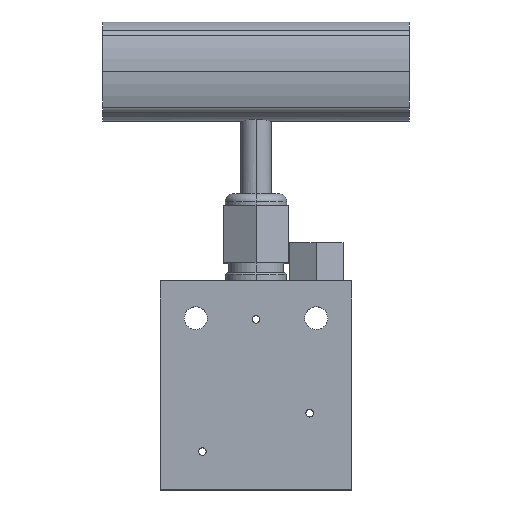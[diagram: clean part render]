
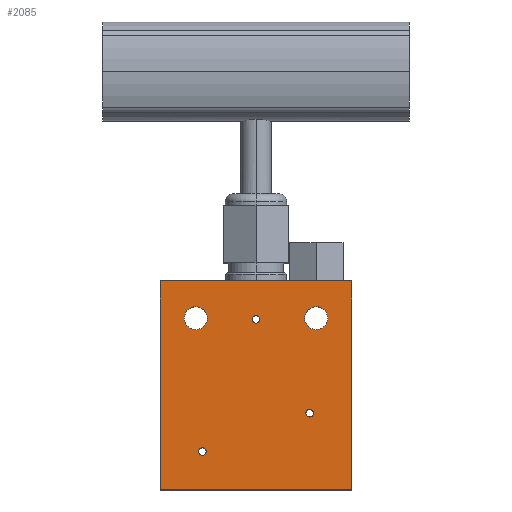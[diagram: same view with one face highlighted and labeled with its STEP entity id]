
A CAD part, top view. The second image highlights one B-rep face of the part: STEP entity #2085.
In plain terms, the highlighted planar face has unit normal (0, 0, 1).
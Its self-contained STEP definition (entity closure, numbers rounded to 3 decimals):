
#9 = CARTESIAN_POINT ( 'NONE',  ( 13., -7.25, 10. ) ) ;
#74 = ORIENTED_EDGE ( 'NONE', *, *, #2242, .T. ) ;
#79 = CARTESIAN_POINT ( 'NONE',  ( 15.7, 17.55, 10. ) ) ;
#118 = PLANE ( 'NONE',  #2000 ) ;
#141 = CARTESIAN_POINT ( 'NONE',  ( -25., -27.25, 10. ) ) ;
#154 = CARTESIAN_POINT ( 'NONE',  ( -18.7, 17.55, 10. ) ) ;
#163 = EDGE_LOOP ( 'NONE', ( #1718, #492 ) ) ;
#220 = VERTEX_POINT ( 'NONE', #1346 ) ;
#226 = EDGE_LOOP ( 'NONE', ( #2731, #1706 ) ) ;
#264 = EDGE_CURVE ( 'NONE', #925, #1735, #1487, .T. ) ;
#285 = ORIENTED_EDGE ( 'NONE', *, *, #1708, .T. ) ;
#288 = LINE ( 'NONE', #1362, #1687 ) ;
#325 = LINE ( 'NONE', #1850, #363 ) ;
#331 = DIRECTION ( 'NONE',  ( 1., 0., 0. ) ) ;
#343 = DIRECTION ( 'NONE',  ( 0., 0., 1. ) ) ;
#363 = VECTOR ( 'NONE', #1408, 1000. ) ;
#387 = VERTEX_POINT ( 'NONE', #9 ) ;
#422 = EDGE_CURVE ( 'NONE', #1735, #925, #2119, .T. ) ;
#441 = ORIENTED_EDGE ( 'NONE', *, *, #2067, .F. ) ;
#492 = ORIENTED_EDGE ( 'NONE', *, *, #422, .F. ) ;
#496 = DIRECTION ( 'NONE',  ( 1., 0., 0. ) ) ;
#545 = VERTEX_POINT ( 'NONE', #2399 ) ;
#555 = AXIS2_PLACEMENT_3D ( 'NONE', #1844, #2695, #766 ) ;
#579 = DIRECTION ( 'NONE',  ( 1., 0., 0. ) ) ;
#587 = EDGE_CURVE ( 'NONE', #1114, #963, #1197, .T. ) ;
#611 = CARTESIAN_POINT ( 'NONE',  ( -25., -27.25, 10. ) ) ;
#639 = EDGE_CURVE ( 'NONE', #1570, #2670, #325, .T. ) ;
#676 = AXIS2_PLACEMENT_3D ( 'NONE', #79, #730, #1795 ) ;
#677 = AXIS2_PLACEMENT_3D ( 'NONE', #1186, #786, #1878 ) ;
#691 = EDGE_CURVE ( 'NONE', #789, #387, #1897, .T. ) ;
#721 = AXIS2_PLACEMENT_3D ( 'NONE', #969, #1396, #1628 ) ;
#730 = DIRECTION ( 'NONE',  ( 0., 0., -1. ) ) ;
#733 = AXIS2_PLACEMENT_3D ( 'NONE', #1403, #2735, #2707 ) ;
#753 = CARTESIAN_POINT ( 'NONE',  ( 0., 17.25, 10. ) ) ;
#758 = VERTEX_POINT ( 'NONE', #1241 ) ;
#762 = FACE_BOUND ( 'NONE', #226, .T. ) ;
#766 = DIRECTION ( 'NONE',  ( 1., 0., 0. ) ) ;
#776 = FACE_BOUND ( 'NONE', #163, .T. ) ;
#786 = DIRECTION ( 'NONE',  ( 0., 0., 1. ) ) ;
#789 = VERTEX_POINT ( 'NONE', #1075 ) ;
#806 = CARTESIAN_POINT ( 'NONE',  ( 1., 17.25, 10. ) ) ;
#815 = EDGE_LOOP ( 'NONE', ( #1115, #2494 ) ) ;
#866 = DIRECTION ( 'NONE',  ( 0., 0., -1. ) ) ;
#870 = EDGE_CURVE ( 'NONE', #387, #789, #1940, .T. ) ;
#925 = VERTEX_POINT ( 'NONE', #1818 ) ;
#939 = DIRECTION ( 'NONE',  ( 1., 0., 0. ) ) ;
#963 = VERTEX_POINT ( 'NONE', #1101 ) ;
#969 = CARTESIAN_POINT ( 'NONE',  ( 14., -7.25, 10. ) ) ;
#977 = CARTESIAN_POINT ( 'NONE',  ( -15., -17.25, 10. ) ) ;
#1004 = DIRECTION ( 'NONE',  ( 1., 0., 0. ) ) ;
#1075 = CARTESIAN_POINT ( 'NONE',  ( 15., -7.25, 10. ) ) ;
#1077 = CARTESIAN_POINT ( 'NONE',  ( 15.7, 17.55, 10. ) ) ;
#1101 = CARTESIAN_POINT ( 'NONE',  ( 18.7, 17.55, 10. ) ) ;
#1114 = VERTEX_POINT ( 'NONE', #1339 ) ;
#1115 = ORIENTED_EDGE ( 'NONE', *, *, #1243, .F. ) ;
#1136 = CARTESIAN_POINT ( 'NONE',  ( 25., -27.25, 10. ) ) ;
#1168 = DIRECTION ( 'NONE',  ( 0., 0., 1. ) ) ;
#1186 = CARTESIAN_POINT ( 'NONE',  ( 14., -7.25, 10. ) ) ;
#1193 = DIRECTION ( 'NONE',  ( -1., 0., 0. ) ) ;
#1197 = CIRCLE ( 'NONE', #676, 3. ) ;
#1241 = CARTESIAN_POINT ( 'NONE',  ( -1., 17.25, 10. ) ) ;
#1243 = EDGE_CURVE ( 'NONE', #545, #1822, #1411, .T. ) ;
#1250 = EDGE_CURVE ( 'NONE', #2670, #220, #1815, .T. ) ;
#1279 = CARTESIAN_POINT ( 'NONE',  ( -15.7, 17.55, 10. ) ) ;
#1339 = CARTESIAN_POINT ( 'NONE',  ( 12.7, 17.55, 10. ) ) ;
#1346 = CARTESIAN_POINT ( 'NONE',  ( -25., 27.25, 10. ) ) ;
#1362 = CARTESIAN_POINT ( 'NONE',  ( -25., 27.25, 10. ) ) ;
#1396 = DIRECTION ( 'NONE',  ( 0., 0., 1. ) ) ;
#1403 = CARTESIAN_POINT ( 'NONE',  ( 0., 17.25, 10. ) ) ;
#1408 = DIRECTION ( 'NONE',  ( 0., 1., 0. ) ) ;
#1411 = CIRCLE ( 'NONE', #1953, 1. ) ;
#1455 = CARTESIAN_POINT ( 'NONE',  ( 25., 27.25, 10. ) ) ;
#1462 = EDGE_LOOP ( 'NONE', ( #2166, #2644, #285, #2449 ) ) ;
#1487 = CIRCLE ( 'NONE', #2471, 3. ) ;
#1515 = DIRECTION ( 'NONE',  ( -1., 0., 0. ) ) ;
#1519 = DIRECTION ( 'NONE',  ( 1., 0., 0. ) ) ;
#1532 = DIRECTION ( 'NONE',  ( 0., 0., 1. ) ) ;
#1543 = CARTESIAN_POINT ( 'NONE',  ( -15.7, 17.55, 10. ) ) ;
#1548 = VECTOR ( 'NONE', #1004, 1000. ) ;
#1570 = VERTEX_POINT ( 'NONE', #1136 ) ;
#1602 = AXIS2_PLACEMENT_3D ( 'NONE', #753, #343, #939 ) ;
#1628 = DIRECTION ( 'NONE',  ( 1., 0., 0. ) ) ;
#1687 = VECTOR ( 'NONE', #2215, 1000. ) ;
#1703 = EDGE_LOOP ( 'NONE', ( #74, #1849 ) ) ;
#1706 = ORIENTED_EDGE ( 'NONE', *, *, #870, .F. ) ;
#1708 = EDGE_CURVE ( 'NONE', #220, #2701, #288, .T. ) ;
#1718 = ORIENTED_EDGE ( 'NONE', *, *, #264, .F. ) ;
#1721 = ORIENTED_EDGE ( 'NONE', *, *, #2529, .F. ) ;
#1735 = VERTEX_POINT ( 'NONE', #154 ) ;
#1775 = CIRCLE ( 'NONE', #2354, 3. ) ;
#1795 = DIRECTION ( 'NONE',  ( -1., 0., 0. ) ) ;
#1815 = LINE ( 'NONE', #2664, #2762 ) ;
#1818 = CARTESIAN_POINT ( 'NONE',  ( -12.7, 17.55, 10. ) ) ;
#1822 = VERTEX_POINT ( 'NONE', #977 ) ;
#1844 = CARTESIAN_POINT ( 'NONE',  ( -14., -17.25, 10. ) ) ;
#1849 = ORIENTED_EDGE ( 'NONE', *, *, #587, .T. ) ;
#1850 = CARTESIAN_POINT ( 'NONE',  ( 25., 27.25, 10. ) ) ;
#1855 = FACE_BOUND ( 'NONE', #815, .T. ) ;
#1878 = DIRECTION ( 'NONE',  ( 1., 0., 0. ) ) ;
#1881 = DIRECTION ( 'NONE',  ( 0., 0., 1. ) ) ;
#1897 = CIRCLE ( 'NONE', #677, 1. ) ;
#1940 = CIRCLE ( 'NONE', #721, 1. ) ;
#1953 = AXIS2_PLACEMENT_3D ( 'NONE', #2680, #1168, #331 ) ;
#2000 = AXIS2_PLACEMENT_3D ( 'NONE', #2495, #1881, #579 ) ;
#2050 = FACE_BOUND ( 'NONE', #2212, .T. ) ;
#2067 = EDGE_CURVE ( 'NONE', #2649, #758, #2758, .T. ) ;
#2079 = CIRCLE ( 'NONE', #555, 1. ) ;
#2085 = ADVANCED_FACE ( 'NONE', ( #762, #1855, #2050, #2283, #776, #2259 ), #118, .T. ) ;
#2119 = CIRCLE ( 'NONE', #2699, 3. ) ;
#2124 = EDGE_CURVE ( 'NONE', #2701, #1570, #2483, .T. ) ;
#2166 = ORIENTED_EDGE ( 'NONE', *, *, #639, .T. ) ;
#2212 = EDGE_LOOP ( 'NONE', ( #441, #1721 ) ) ;
#2215 = DIRECTION ( 'NONE',  ( 0., -1., 0. ) ) ;
#2242 = EDGE_CURVE ( 'NONE', #963, #1114, #1775, .T. ) ;
#2259 = FACE_OUTER_BOUND ( 'NONE', #1462, .T. ) ;
#2283 = FACE_BOUND ( 'NONE', #1703, .T. ) ;
#2289 = EDGE_CURVE ( 'NONE', #1822, #545, #2079, .T. ) ;
#2354 = AXIS2_PLACEMENT_3D ( 'NONE', #1077, #866, #1515 ) ;
#2399 = CARTESIAN_POINT ( 'NONE',  ( -13., -17.25, 10. ) ) ;
#2424 = DIRECTION ( 'NONE',  ( 0., 0., 1. ) ) ;
#2449 = ORIENTED_EDGE ( 'NONE', *, *, #2124, .T. ) ;
#2471 = AXIS2_PLACEMENT_3D ( 'NONE', #1543, #2424, #496 ) ;
#2483 = LINE ( 'NONE', #141, #1548 ) ;
#2494 = ORIENTED_EDGE ( 'NONE', *, *, #2289, .F. ) ;
#2495 = CARTESIAN_POINT ( 'NONE',  ( 0., 0., 10. ) ) ;
#2529 = EDGE_CURVE ( 'NONE', #758, #2649, #2726, .T. ) ;
#2644 = ORIENTED_EDGE ( 'NONE', *, *, #1250, .T. ) ;
#2649 = VERTEX_POINT ( 'NONE', #806 ) ;
#2664 = CARTESIAN_POINT ( 'NONE',  ( -25., 27.25, 10. ) ) ;
#2670 = VERTEX_POINT ( 'NONE', #1455 ) ;
#2680 = CARTESIAN_POINT ( 'NONE',  ( -14., -17.25, 10. ) ) ;
#2695 = DIRECTION ( 'NONE',  ( 0., 0., 1. ) ) ;
#2699 = AXIS2_PLACEMENT_3D ( 'NONE', #1279, #1532, #1519 ) ;
#2701 = VERTEX_POINT ( 'NONE', #611 ) ;
#2707 = DIRECTION ( 'NONE',  ( 1., 0., 0. ) ) ;
#2726 = CIRCLE ( 'NONE', #1602, 1. ) ;
#2731 = ORIENTED_EDGE ( 'NONE', *, *, #691, .F. ) ;
#2735 = DIRECTION ( 'NONE',  ( 0., 0., 1. ) ) ;
#2758 = CIRCLE ( 'NONE', #733, 1. ) ;
#2762 = VECTOR ( 'NONE', #1193, 1000. ) ;
